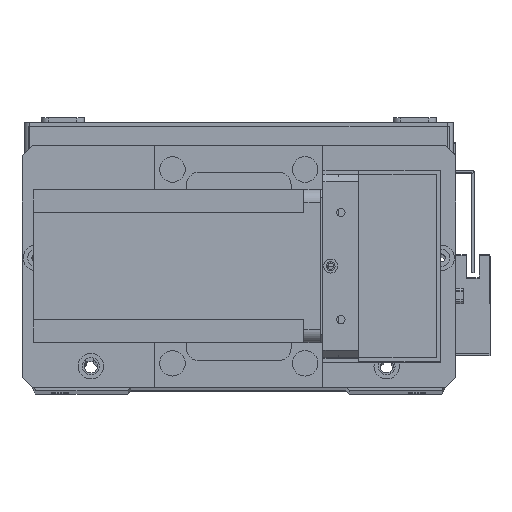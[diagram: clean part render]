
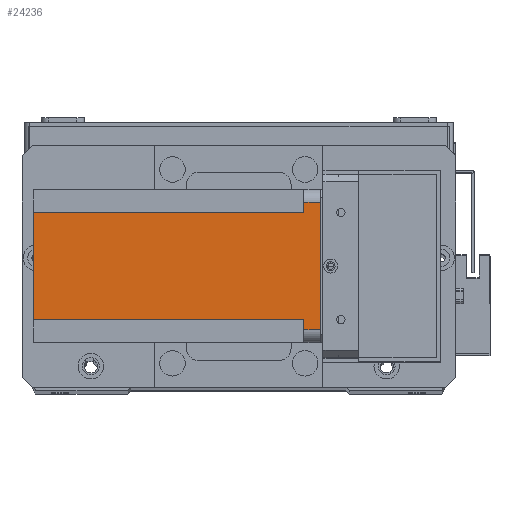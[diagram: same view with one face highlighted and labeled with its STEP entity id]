
A CAD part, top view. The second image highlights one B-rep face of the part: STEP entity #24236.
In plain terms, the highlighted planar face has unit normal (0, 0, 1) as drawn and (-1, 0, 0) by its records, which use the part's own axes.
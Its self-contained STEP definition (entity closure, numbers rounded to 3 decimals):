
#583 = VECTOR ( 'NONE', #14904, 1000. ) ;
#633 = LINE ( 'NONE', #27026, #583 ) ;
#1406 = VERTEX_POINT ( 'NONE', #3409 ) ;
#1656 = CARTESIAN_POINT ( 'NONE',  ( 0., 0., 0. ) ) ;
#1844 = VECTOR ( 'NONE', #30790, 1000. ) ;
#1902 = LINE ( 'NONE', #25322, #1844 ) ;
#1964 = EDGE_CURVE ( 'NONE', #22491, #24055, #7238, .T. ) ;
#2405 = EDGE_CURVE ( 'NONE', #22491, #13123, #1902, .T. ) ;
#2583 = EDGE_CURVE ( 'NONE', #23113, #21174, #633, .T. ) ;
#3017 = EDGE_CURVE ( 'NONE', #1406, #21174, #28740, .T. ) ;
#3409 = CARTESIAN_POINT ( 'NONE',  ( 0., 51., -6.5 ) ) ;
#3561 = EDGE_CURVE ( 'NONE', #21762, #1406, #26243, .T. ) ;
#3850 = CARTESIAN_POINT ( 'NONE',  ( 0., 9., -112.5 ) ) ;
#4006 = EDGE_CURVE ( 'NONE', #21762, #26380, #24514, .T. ) ;
#4144 = FACE_OUTER_BOUND ( 'NONE', #19987, .T. ) ;
#4269 = CARTESIAN_POINT ( 'NONE',  ( 0., 9., -112.5 ) ) ;
#4294 = DIRECTION ( 'NONE',  ( 0., 0., -1. ) ) ;
#4602 = EDGE_CURVE ( 'NONE', #24055, #26380, #21611, .T. ) ;
#5297 = DIRECTION ( 'NONE',  ( 0., -1., 0. ) ) ;
#6433 = ORIENTED_EDGE ( 'NONE', *, *, #1964, .F. ) ;
#6813 = CARTESIAN_POINT ( 'NONE',  ( 0., 9., -6.5 ) ) ;
#6884 = ORIENTED_EDGE ( 'NONE', *, *, #2405, .T. ) ;
#6956 = VECTOR ( 'NONE', #11909, 1000. ) ;
#7067 = ORIENTED_EDGE ( 'NONE', *, *, #30675, .F. ) ;
#7190 = ORIENTED_EDGE ( 'NONE', *, *, #2583, .T. ) ;
#7220 = CARTESIAN_POINT ( 'NONE',  ( 0., 51., -112.5 ) ) ;
#7238 = LINE ( 'NONE', #11367, #6956 ) ;
#8866 = ORIENTED_EDGE ( 'NONE', *, *, #3017, .F. ) ;
#9706 = ORIENTED_EDGE ( 'NONE', *, *, #3561, .F. ) ;
#9886 = DIRECTION ( 'NONE',  ( 0., 1., 0. ) ) ;
#10031 = ORIENTED_EDGE ( 'NONE', *, *, #4006, .T. ) ;
#10064 = CARTESIAN_POINT ( 'NONE',  ( 0., 5., 0. ) ) ;
#11098 = ORIENTED_EDGE ( 'NONE', *, *, #4602, .F. ) ;
#11367 = CARTESIAN_POINT ( 'NONE',  ( 0., 0., -6.5 ) ) ;
#11909 = DIRECTION ( 'NONE',  ( 0., 1., 0. ) ) ;
#13123 = VERTEX_POINT ( 'NONE', #10064 ) ;
#13143 = AXIS2_PLACEMENT_3D ( 'NONE', #17076, #19560, #5297 ) ;
#14764 = PLANE ( 'NONE',  #13143 ) ;
#14904 = DIRECTION ( 'NONE',  ( 0., 0., -1. ) ) ;
#15058 = DIRECTION ( 'NONE',  ( 0., 0., 1. ) ) ;
#15729 = CARTESIAN_POINT ( 'NONE',  ( 0., 51., -112.5 ) ) ;
#15975 = CARTESIAN_POINT ( 'NONE',  ( 0., 55., -6.5 ) ) ;
#17076 = CARTESIAN_POINT ( 'NONE',  ( 0., 0., -112.5 ) ) ;
#18158 = DIRECTION ( 'NONE',  ( 0., -1., 0. ) ) ;
#19560 = DIRECTION ( 'NONE',  ( -1., 0., 0. ) ) ;
#19987 = EDGE_LOOP ( 'NONE', ( #6433, #6884, #7067, #7190, #8866, #9706, #10031, #11098 ) ) ;
#21174 = VERTEX_POINT ( 'NONE', #15975 ) ;
#21554 = VECTOR ( 'NONE', #4294, 1000. ) ;
#21611 = LINE ( 'NONE', #4269, #21554 ) ;
#21762 = VERTEX_POINT ( 'NONE', #7220 ) ;
#22491 = VERTEX_POINT ( 'NONE', #29673 ) ;
#23113 = VERTEX_POINT ( 'NONE', #24752 ) ;
#23386 = VECTOR ( 'NONE', #18158, 1000. ) ;
#24055 = VERTEX_POINT ( 'NONE', #6813 ) ;
#24121 = DIRECTION ( 'NONE',  ( 0., -1., 0. ) ) ;
#24236 = ADVANCED_FACE ( 'NONE', ( #4144 ), #14764, .T. ) ;
#24424 = VECTOR ( 'NONE', #24121, 1000. ) ;
#24514 = LINE ( 'NONE', #24572, #24424 ) ;
#24572 = CARTESIAN_POINT ( 'NONE',  ( 0., 0., -112.5 ) ) ;
#24752 = CARTESIAN_POINT ( 'NONE',  ( 0., 55., 0. ) ) ;
#25322 = CARTESIAN_POINT ( 'NONE',  ( 0., 5., -112.5 ) ) ;
#26212 = VECTOR ( 'NONE', #15058, 1000. ) ;
#26243 = LINE ( 'NONE', #15729, #26212 ) ;
#26380 = VERTEX_POINT ( 'NONE', #3850 ) ;
#27026 = CARTESIAN_POINT ( 'NONE',  ( 0., 55., -112.5 ) ) ;
#28484 = CARTESIAN_POINT ( 'NONE',  ( 0., 60., -6.5 ) ) ;
#28740 = LINE ( 'NONE', #28484, #28789 ) ;
#28789 = VECTOR ( 'NONE', #9886, 1000. ) ;
#29673 = CARTESIAN_POINT ( 'NONE',  ( 0., 5., -6.5 ) ) ;
#30489 = LINE ( 'NONE', #1656, #23386 ) ;
#30675 = EDGE_CURVE ( 'NONE', #23113, #13123, #30489, .T. ) ;
#30790 = DIRECTION ( 'NONE',  ( 0., 0., 1. ) ) ;
